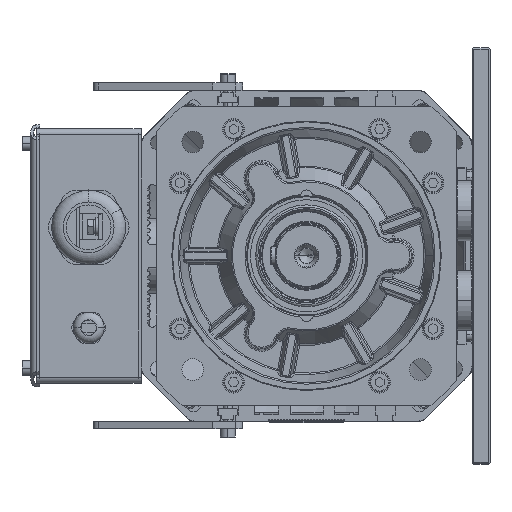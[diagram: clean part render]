
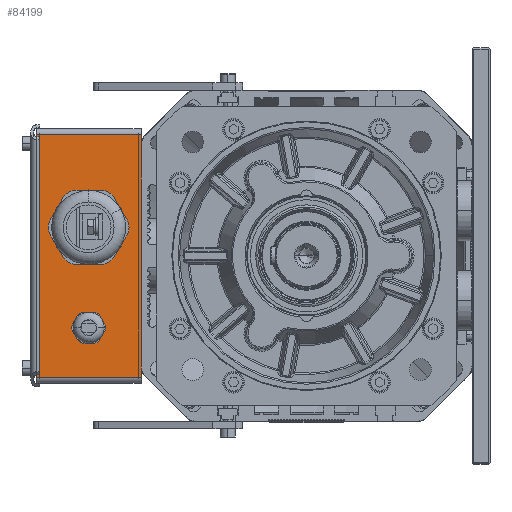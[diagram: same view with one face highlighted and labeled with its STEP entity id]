
A CAD part, left-side view. The second image highlights one B-rep face of the part: STEP entity #84199.
In plain terms, the highlighted planar face has unit normal (-1, 0, 0).
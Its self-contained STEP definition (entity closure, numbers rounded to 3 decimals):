
#81945=DIRECTION('',(0.,0.,1.));
#81946=VECTOR('',#81945,162.);
#81947=CARTESIAN_POINT('',(178.,110.5,-81.));
#81948=LINE('',#81947,#81946);
#82222=CARTESIAN_POINT('',(178.,145.5,-48.));
#82223=DIRECTION('',(-1.,0.,0.));
#82224=DIRECTION('',(0.,1.,0.));
#82225=AXIS2_PLACEMENT_3D('',#82222,#82223,#82224);
#82227=CARTESIAN_POINT('',(178.,145.5,-48.));
#82228=DIRECTION('',(-1.,0.,0.));
#82229=DIRECTION('',(0.,-1.,0.));
#82230=AXIS2_PLACEMENT_3D('',#82227,#82228,#82229);
#82232=CARTESIAN_POINT('',(178.,145.5,19.));
#82233=DIRECTION('',(-1.,0.,0.));
#82234=DIRECTION('',(0.,1.,0.));
#82235=AXIS2_PLACEMENT_3D('',#82232,#82233,#82234);
#82237=CARTESIAN_POINT('',(178.,145.5,19.));
#82238=DIRECTION('',(-1.,0.,0.));
#82239=DIRECTION('',(0.,-1.,0.));
#82240=AXIS2_PLACEMENT_3D('',#82237,#82238,#82239);
#82242=DIRECTION('',(0.,0.,1.));
#82243=VECTOR('',#82242,162.);
#82244=CARTESIAN_POINT('',(178.,180.5,-81.));
#82245=LINE('',#82244,#82243);
#83182=DIRECTION('',(0.,-1.,0.));
#83183=VECTOR('',#83182,70.);
#83184=CARTESIAN_POINT('',(178.,180.5,-81.));
#83185=LINE('',#83184,#83183);
#83202=DIRECTION('',(0.,1.,0.));
#83203=VECTOR('',#83202,70.);
#83204=CARTESIAN_POINT('',(178.,110.5,81.));
#83205=LINE('',#83204,#83203);
#83562=CARTESIAN_POINT('',(178.,155.5,-48.));
#83563=CARTESIAN_POINT('',(178.,135.5,-48.));
#83564=VERTEX_POINT('',#83562);
#83565=VERTEX_POINT('',#83563);
#83566=CARTESIAN_POINT('',(178.,170.5,19.));
#83567=CARTESIAN_POINT('',(178.,120.5,19.));
#83568=VERTEX_POINT('',#83566);
#83569=VERTEX_POINT('',#83567);
#83766=CARTESIAN_POINT('',(178.,110.5,-81.));
#83768=VERTEX_POINT('',#83766);
#83779=CARTESIAN_POINT('',(178.,110.5,81.));
#83781=VERTEX_POINT('',#83779);
#83798=CARTESIAN_POINT('',(178.,180.5,81.));
#83800=VERTEX_POINT('',#83798);
#83811=CARTESIAN_POINT('',(178.,180.5,-81.));
#83813=VERTEX_POINT('',#83811);
#84174=CARTESIAN_POINT('',(178.,110.5,-85.));
#84175=DIRECTION('',(-1.,0.,0.));
#84176=DIRECTION('',(0.,0.,1.));
#84177=AXIS2_PLACEMENT_3D('',#84174,#84175,#84176);
#84178=PLANE('',#84177);
#84180=ORIENTED_EDGE('',*,*,#84179,.F.);
#84181=ORIENTED_EDGE('',*,*,#83981,.F.);
#84183=ORIENTED_EDGE('',*,*,#84182,.F.);
#84184=ORIENTED_EDGE('',*,*,#84041,.T.);
#84185=EDGE_LOOP('',(#84180,#84181,#84183,#84184));
#84186=FACE_OUTER_BOUND('',#84185,.F.);
#84188=ORIENTED_EDGE('',*,*,#84187,.T.);
#84190=ORIENTED_EDGE('',*,*,#84189,.T.);
#84191=EDGE_LOOP('',(#84188,#84190));
#84192=FACE_BOUND('',#84191,.F.);
#84194=ORIENTED_EDGE('',*,*,#84193,.T.);
#84196=ORIENTED_EDGE('',*,*,#84195,.T.);
#84197=EDGE_LOOP('',(#84194,#84196));
#84198=FACE_BOUND('',#84197,.F.);
#84199=ADVANCED_FACE('',(#84186,#84192,#84198),#84178,.T.);
#82226=CIRCLE('',#82225,10.);
#82231=CIRCLE('',#82230,10.);
#82236=CIRCLE('',#82235,25.);
#82241=CIRCLE('',#82240,25.);
#83981=EDGE_CURVE('',#83768,#83781,#81948,.T.);
#84041=EDGE_CURVE('',#83813,#83800,#82245,.T.);
#84179=EDGE_CURVE('',#83781,#83800,#83205,.T.);
#84182=EDGE_CURVE('',#83813,#83768,#83185,.T.);
#84187=EDGE_CURVE('',#83568,#83569,#82236,.T.);
#84189=EDGE_CURVE('',#83569,#83568,#82241,.T.);
#84193=EDGE_CURVE('',#83564,#83565,#82226,.T.);
#84195=EDGE_CURVE('',#83565,#83564,#82231,.T.);
